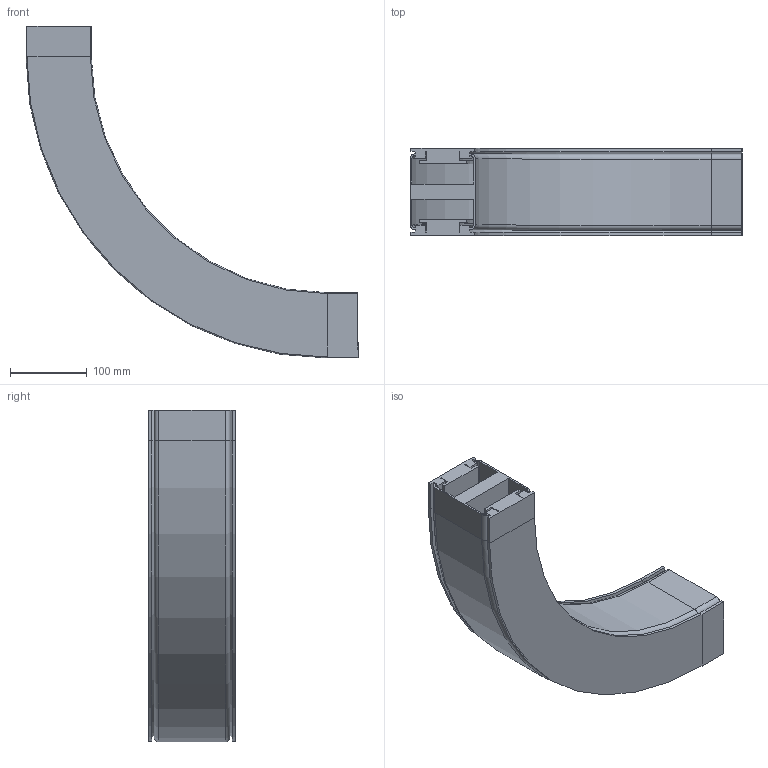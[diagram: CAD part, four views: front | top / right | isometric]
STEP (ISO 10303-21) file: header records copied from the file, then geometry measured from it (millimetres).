
FILE_DESCRIPTION (( 'STEP AP214' ), '1' );
FILE_NAME ('VC.85 Horizontale bochtsectie R350 90°.STEP', '2016-10-19T07:03:04', ( '' ), ( '' ), 'SwSTEP 2.0', 'SolidWorks 2016', '' );
FILE_SCHEMA (( 'AUTOMOTIVE_DESIGN' ));
Length unit declared in the file: millimetre
Products named in the file (1): VC.85 Horizontale bochtsectie R350 90°
Bounding box: 432.5 x 113 x 432.5 mm (x, y, z)
Volume: 3002237.1 mm3; surface area: 695178.6 mm2
Topology: 1 solids, 1 shells, 206 faces, 476 edges, 272 vertices
Faces by surface type: plane 152, cylinder 38, cone 8, torus 8
Entity records: 5674 total; most frequent: DIRECTION 990, CARTESIAN_POINT 955, ORIENTED_EDGE 952, EDGE_CURVE 476, VECTOR 376, LINE 376, AXIS2_PLACEMENT_3D 307, VERTEX_POINT 272
